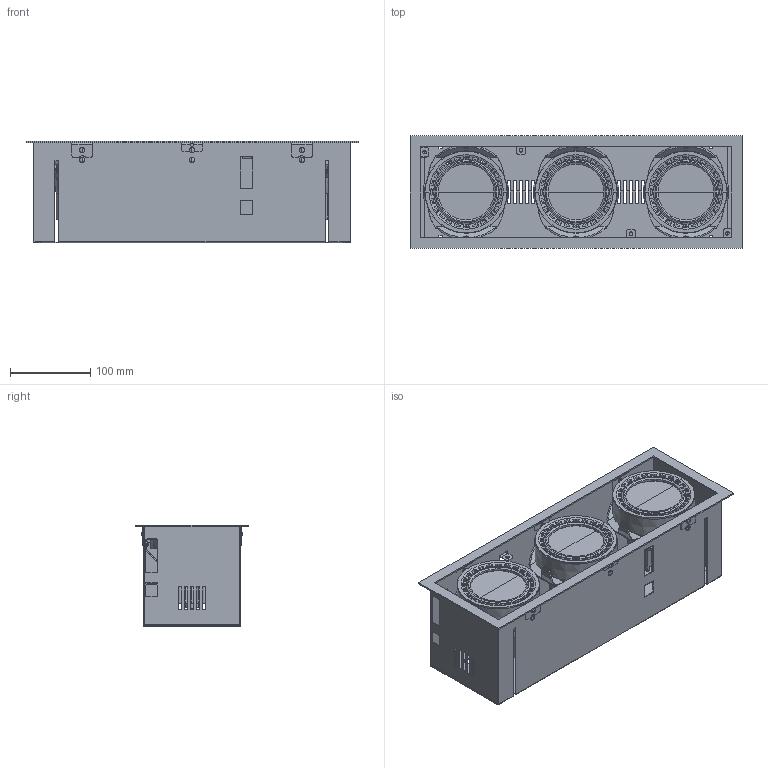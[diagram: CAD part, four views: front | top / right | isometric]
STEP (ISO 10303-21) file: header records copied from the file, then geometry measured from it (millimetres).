
FILE_DESCRIPTION(/* description */ (''),/* implementation_level */ '2;1');
FILE_NAME(/* name */ 'C:\Users\FrancoSartori\Documents\FARO\01_En Proceso\000_PRO\00_1 MINI COLIN\03_Publicación\MINI COLIN-3.stp',/* time_stamp */ '2021-11-16T11:19:21+01:00',/* author */ ('FrancoSartori'),/* organization */ (''),/* preprocessor_version */ 'ST-DEVELOPER v18.1',/* originating_system */ 'AutoCAD Mechanical',/* authorisation */ '');
FILE_SCHEMA (('AUTOMOTIVE_DESIGN { 1 0 10303 214 3 1 1 }'));
Products named in the file (2): Product; MINI COLIN-3_ - Lamp-481552-View 1
Assembly tree (1 placements, depth 2):
  Product
    MINI COLIN-3_ - Lamp-481552-View 1
Bounding box: 413.7 x 140 x 126.76 mm (x, y, z)
Volume: 716169.5 mm3; surface area: 866765.2 mm2
Topology: 201 solids, 201 shells, 3326 faces, 8298 edges, 5272 vertices
Faces by surface type: plane 1542, cylinder 1298, torus 246, cone 186, sphere 48, bspline 6
Entity records: 113952 total; most frequent: CARTESIAN_POINT 34039, DIRECTION 16804, ORIENTED_EDGE 16516, EDGE_CURVE 8258, AXIS2_PLACEMENT_3D 6365, VERTEX_POINT 5272, LINE 4074, VECTOR 4074
